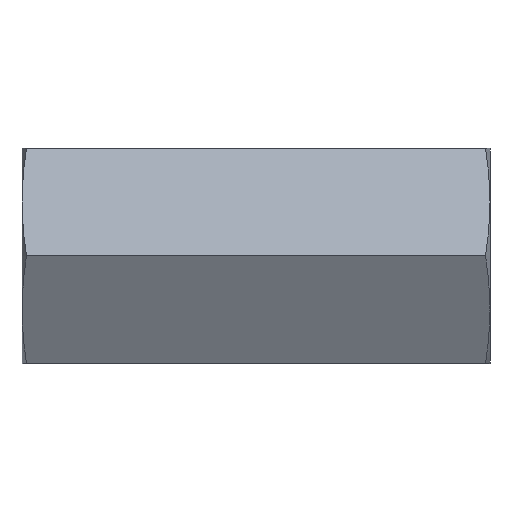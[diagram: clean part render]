
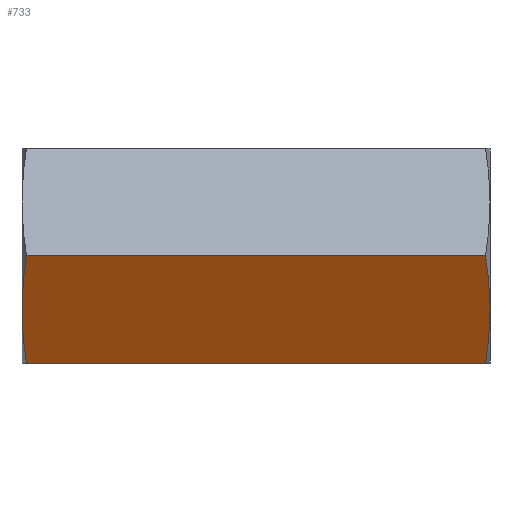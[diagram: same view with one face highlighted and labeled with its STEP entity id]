
A CAD part, top view. The second image highlights one B-rep face of the part: STEP entity #733.
In plain terms, the highlighted planar face has unit normal (0, -0.5, 0.866).
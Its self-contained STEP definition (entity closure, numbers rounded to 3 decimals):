
#733 = ADVANCED_FACE( '', ( #1516 ), #1517, .F. );
#1516 = FACE_OUTER_BOUND( '', #17255, .T. );
#1517 = PLANE( '', #17256 );
#17255 = EDGE_LOOP( '', ( #20615, #20616, #20617, #20618, #20619, #20620, #20621, #20622, #20623, #20624 ) );
#17256 = AXIS2_PLACEMENT_3D( '', #20625, #20626, #20627 );
#20615 = ORIENTED_EDGE( '', *, *, #21604, .F. );
#20616 = ORIENTED_EDGE( '', *, *, #21320, .T. );
#20617 = ORIENTED_EDGE( '', *, *, #21705, .T. );
#20618 = ORIENTED_EDGE( '', *, *, #20931, .T. );
#20619 = ORIENTED_EDGE( '', *, *, #21123, .T. );
#20620 = ORIENTED_EDGE( '', *, *, #21157, .T. );
#20621 = ORIENTED_EDGE( '', *, *, #21410, .F. );
#20622 = ORIENTED_EDGE( '', *, *, #21121, .F. );
#20623 = ORIENTED_EDGE( '', *, *, #21419, .F. );
#20624 = ORIENTED_EDGE( '', *, *, #21742, .F. );
#20625 = CARTESIAN_POINT( '', ( 69.012, 0., 18.331 ) );
#20626 = DIRECTION( '', ( 0., 0.5, -0.866 ) );
#20627 = DIRECTION( '', ( 0., 0.866, 0.5 ) );
#20931 = EDGE_CURVE( '', #21855, #21856, #21857, .T. );
#21121 = EDGE_CURVE( '', #22185, #21979, #22187, .T. );
#21123 = EDGE_CURVE( '', #21856, #22189, #22190, .T. );
#21157 = EDGE_CURVE( '', #22189, #22240, #22241, .T. );
#21320 = EDGE_CURVE( '', #22488, #22490, #22492, .T. );
#21410 = EDGE_CURVE( '', #21979, #22240, #22627, .T. );
#21419 = EDGE_CURVE( '', #22638, #22185, #22639, .T. );
#21604 = EDGE_CURVE( '', #22488, #22895, #22896, .T. );
#21705 = EDGE_CURVE( '', #22490, #21855, #23012, .T. );
#21742 = EDGE_CURVE( '', #22895, #22638, #23052, .T. );
#21855 = VERTEX_POINT( '', #23332 );
#21856 = VERTEX_POINT( '', #23333 );
#21857 = B_SPLINE_CURVE_WITH_KNOTS( '', 3, ( #23334, #23335, #23336, #23337 ), .UNSPECIFIED., .F., .F., ( 4, 4 ), ( 0.009, 0.01 ), .UNSPECIFIED. );
#21979 = VERTEX_POINT( '', #23702 );
#22185 = VERTEX_POINT( '', #28038 );
#22187 = B_SPLINE_CURVE_WITH_KNOTS( '', 3, ( #28043, #28044, #28045, #28046 ), .UNSPECIFIED., .F., .F., ( 4, 4 ), ( 0.009, 0.01 ), .UNSPECIFIED. );
#22189 = VERTEX_POINT( '', #28048 );
#22190 = B_SPLINE_CURVE_WITH_KNOTS( '', 3, ( #28049, #28050, #28051, #28052, #28053, #28054, #28055, #28056, #28057, #28058, #28059 ), .UNSPECIFIED., .F., .F., ( 4, 1, 1, 1, 2, 2, 4 ), ( 0.01, 0.011, 0.012, 0.013, 0.014, 0.016, 0.018 ), .UNSPECIFIED. );
#22240 = VERTEX_POINT( '', #28146 );
#22241 = LINE( '', #28147, #28148 );
#22488 = VERTEX_POINT( '', #30998 );
#22490 = VERTEX_POINT( '', #31010 );
#22492 = B_SPLINE_CURVE_WITH_KNOTS( '', 3, ( #31012, #31013, #31014, #31015, #31016, #31017, #31018, #31019, #31020, #31021, #31022 ), .UNSPECIFIED., .F., .F., ( 4, 2, 2, 1, 1, 1, 4 ), ( 0., 0.002, 0.004, 0.005, 0.006, 0.007, 0.008 ), .UNSPECIFIED. );
#22627 = B_SPLINE_CURVE_WITH_KNOTS( '', 3, ( #33424, #33425, #33426, #33427, #33428, #33429, #33430, #33431, #33432, #33433, #33434 ), .UNSPECIFIED., .F., .F., ( 4, 1, 1, 1, 2, 2, 4 ), ( 0.01, 0.011, 0.012, 0.013, 0.014, 0.016, 0.018 ), .UNSPECIFIED. );
#22638 = VERTEX_POINT( '', #37418 );
#22639 = B_SPLINE_CURVE_WITH_KNOTS( '', 3, ( #37419, #37420, #37421, #37422 ), .UNSPECIFIED., .F., .F., ( 4, 4 ), ( 0.008, 0.009 ), .UNSPECIFIED. );
#22895 = VERTEX_POINT( '', #38105 );
#22896 = LINE( '', #38106, #38107 );
#23012 = B_SPLINE_CURVE_WITH_KNOTS( '', 3, ( #42287, #42288, #42289, #42290 ), .UNSPECIFIED., .F., .F., ( 4, 4 ), ( 0.008, 0.009 ), .UNSPECIFIED. );
#23052 = B_SPLINE_CURVE_WITH_KNOTS( '', 3, ( #42444, #42445, #42446, #42447, #42448, #42449, #42450, #42451, #42452, #42453, #42454 ), .UNSPECIFIED., .F., .F., ( 4, 2, 2, 1, 1, 1, 4 ), ( 0., 0.002, 0.004, 0.005, 0.006, 0.007, 0.008 ), .UNSPECIFIED. );
#23332 = CARTESIAN_POINT( '', ( 69.012, -7.938, 13.748 ) );
#23333 = CARTESIAN_POINT( '', ( 69.003, -7.06, 14.255 ) );
#23334 = CARTESIAN_POINT( '', ( 69.012, -7.937, 13.748 ) );
#23335 = CARTESIAN_POINT( '', ( 69.012, -7.645, 13.917 ) );
#23336 = CARTESIAN_POINT( '', ( 69.009, -7.353, 14.086 ) );
#23337 = CARTESIAN_POINT( '', ( 69.003, -7.06, 14.255 ) );
#23702 = CARTESIAN_POINT( '', ( 0.009, -7.06, 14.255 ) );
#28038 = CARTESIAN_POINT( '', ( 0., -7.938, 13.748 ) );
#28043 = CARTESIAN_POINT( '', ( 0., -7.937, 13.748 ) );
#28044 = CARTESIAN_POINT( '', ( 0., -7.645, 13.917 ) );
#28045 = CARTESIAN_POINT( '', ( 0.003, -7.353, 14.086 ) );
#28046 = CARTESIAN_POINT( '', ( 0.009, -7.06, 14.255 ) );
#28048 = CARTESIAN_POINT( '', ( 68.354, 0., 18.331 ) );
#28049 = CARTESIAN_POINT( '', ( 69.003, -7.06, 14.255 ) );
#28050 = CARTESIAN_POINT( '', ( 68.997, -6.766, 14.425 ) );
#28051 = CARTESIAN_POINT( '', ( 68.98, -6.178, 14.764 ) );
#28052 = CARTESIAN_POINT( '', ( 68.937, -5.295, 15.274 ) );
#28053 = CARTESIAN_POINT( '', ( 68.877, -4.413, 15.783 ) );
#28054 = CARTESIAN_POINT( '', ( 68.826, -3.824, 16.123 ) );
#28055 = CARTESIAN_POINT( '', ( 68.743, -2.942, 16.632 ) );
#28056 = CARTESIAN_POINT( '', ( 68.677, -2.353, 16.972 ) );
#28057 = CARTESIAN_POINT( '', ( 68.528, -1.177, 17.652 ) );
#28058 = CARTESIAN_POINT( '', ( 68.445, -0.588, 17.991 ) );
#28059 = CARTESIAN_POINT( '', ( 68.354, 0., 18.331 ) );
#28146 = CARTESIAN_POINT( '', ( 0.658, 0., 18.331 ) );
#28147 = CARTESIAN_POINT( '', ( 69.012, 0., 18.331 ) );
#28148 = VECTOR( '', #42779, 1000. );
#30998 = CARTESIAN_POINT( '', ( 68.354, -15.875, 9.165 ) );
#31010 = CARTESIAN_POINT( '', ( 69.003, -8.815, 13.242 ) );
#31012 = CARTESIAN_POINT( '', ( 68.354, -15.875, 9.165 ) );
#31013 = CARTESIAN_POINT( '', ( 68.445, -15.287, 9.505 ) );
#31014 = CARTESIAN_POINT( '', ( 68.528, -14.698, 9.845 ) );
#31015 = CARTESIAN_POINT( '', ( 68.677, -13.522, 10.524 ) );
#31016 = CARTESIAN_POINT( '', ( 68.743, -12.933, 10.864 ) );
#31017 = CARTESIAN_POINT( '', ( 68.826, -12.051, 11.373 ) );
#31018 = CARTESIAN_POINT( '', ( 68.877, -11.462, 11.713 ) );
#31019 = CARTESIAN_POINT( '', ( 68.937, -10.58, 12.223 ) );
#31020 = CARTESIAN_POINT( '', ( 68.98, -9.697, 12.732 ) );
#31021 = CARTESIAN_POINT( '', ( 68.997, -9.109, 13.072 ) );
#31022 = CARTESIAN_POINT( '', ( 69.003, -8.815, 13.242 ) );
#33424 = CARTESIAN_POINT( '', ( 0.009, -7.06, 14.255 ) );
#33425 = CARTESIAN_POINT( '', ( 0.014, -6.766, 14.425 ) );
#33426 = CARTESIAN_POINT( '', ( 0.032, -6.178, 14.764 ) );
#33427 = CARTESIAN_POINT( '', ( 0.075, -5.295, 15.274 ) );
#33428 = CARTESIAN_POINT( '', ( 0.135, -4.413, 15.783 ) );
#33429 = CARTESIAN_POINT( '', ( 0.185, -3.824, 16.123 ) );
#33430 = CARTESIAN_POINT( '', ( 0.269, -2.942, 16.632 ) );
#33431 = CARTESIAN_POINT( '', ( 0.334, -2.353, 16.972 ) );
#33432 = CARTESIAN_POINT( '', ( 0.484, -1.177, 17.652 ) );
#33433 = CARTESIAN_POINT( '', ( 0.567, -0.588, 17.991 ) );
#33434 = CARTESIAN_POINT( '', ( 0.658, 0., 18.331 ) );
#37418 = CARTESIAN_POINT( '', ( 0.009, -8.815, 13.242 ) );
#37419 = CARTESIAN_POINT( '', ( 0.009, -8.815, 13.242 ) );
#37420 = CARTESIAN_POINT( '', ( 0.003, -8.522, 13.41 ) );
#37421 = CARTESIAN_POINT( '', ( 0., -8.23, 13.579 ) );
#37422 = CARTESIAN_POINT( '', ( 0., -7.937, 13.748 ) );
#38105 = CARTESIAN_POINT( '', ( 0.658, -15.875, 9.165 ) );
#38106 = CARTESIAN_POINT( '', ( 69.012, -15.875, 9.165 ) );
#38107 = VECTOR( '', #42996, 1000. );
#42287 = CARTESIAN_POINT( '', ( 69.003, -8.815, 13.242 ) );
#42288 = CARTESIAN_POINT( '', ( 69.009, -8.522, 13.41 ) );
#42289 = CARTESIAN_POINT( '', ( 69.012, -8.23, 13.579 ) );
#42290 = CARTESIAN_POINT( '', ( 69.012, -7.937, 13.748 ) );
#42444 = CARTESIAN_POINT( '', ( 0.658, -15.875, 9.165 ) );
#42445 = CARTESIAN_POINT( '', ( 0.567, -15.287, 9.505 ) );
#42446 = CARTESIAN_POINT( '', ( 0.484, -14.698, 9.845 ) );
#42447 = CARTESIAN_POINT( '', ( 0.334, -13.522, 10.524 ) );
#42448 = CARTESIAN_POINT( '', ( 0.269, -12.933, 10.864 ) );
#42449 = CARTESIAN_POINT( '', ( 0.185, -12.051, 11.373 ) );
#42450 = CARTESIAN_POINT( '', ( 0.135, -11.462, 11.713 ) );
#42451 = CARTESIAN_POINT( '', ( 0.075, -10.58, 12.223 ) );
#42452 = CARTESIAN_POINT( '', ( 0.032, -9.697, 12.732 ) );
#42453 = CARTESIAN_POINT( '', ( 0.014, -9.109, 13.072 ) );
#42454 = CARTESIAN_POINT( '', ( 0.009, -8.815, 13.242 ) );
#42779 = DIRECTION( '', ( -1., 0., 0. ) );
#42996 = DIRECTION( '', ( -1., 0., 0. ) );
